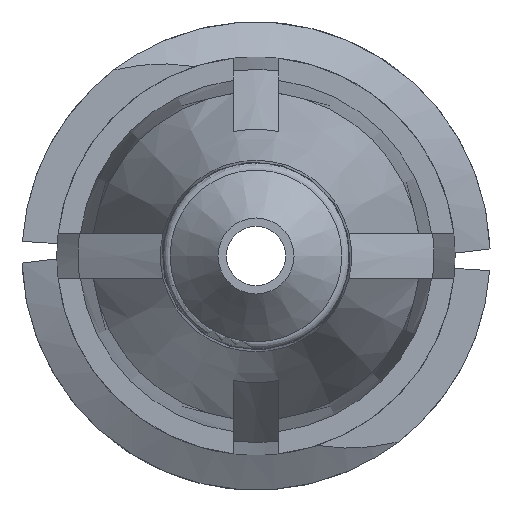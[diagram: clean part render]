
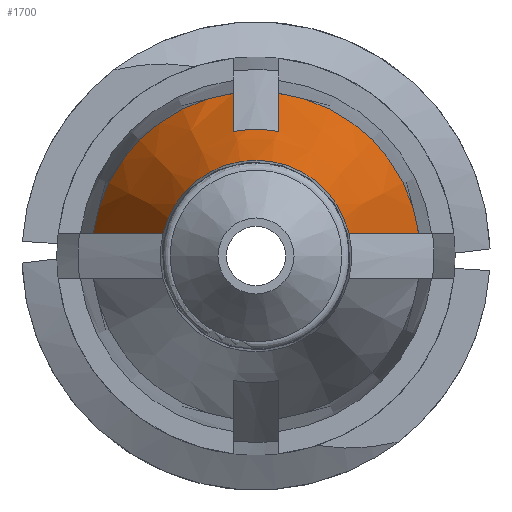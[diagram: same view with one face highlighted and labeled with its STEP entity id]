
A CAD part, front view. The second image highlights one B-rep face of the part: STEP entity #1700.
In plain terms, the highlighted conical face has half-angle 20 degrees and reference radius 2.745 mm.
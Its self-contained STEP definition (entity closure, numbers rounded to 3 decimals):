
#5 = EDGE_LOOP ( 'NONE', ( #1638, #1646, #1039, #217, #597, #2008, #1153, #1460 ) ) ;
#31 = CARTESIAN_POINT ( 'NONE',  ( -0.381, -10.888, 2.507 ) ) ;
#38 = CONICAL_SURFACE ( 'NONE', #2047, 2.745, 0.349 ) ;
#73 = DIRECTION ( 'NONE',  ( 1., 0., 0. ) ) ;
#87 = CARTESIAN_POINT ( 'NONE',  ( -0.381, -10.312, 2.719 ) ) ;
#98 = DIRECTION ( 'NONE',  ( 1., 0., 0. ) ) ;
#119 = B_SPLINE_CURVE_WITH_KNOTS ( 'NONE', 3,
 ( #1850, #1835, #1870, #392 ),
 .UNSPECIFIED., .F., .F.,
 ( 4, 4 ),
 ( 0.003, 0.005 ),
 .UNSPECIFIED. ) ;
#122 = EDGE_CURVE ( 'NONE', #422, #911, #137, .T. ) ;
#137 = CIRCLE ( 'NONE', #1706, 2.745 ) ;
#204 = VERTEX_POINT ( 'NONE', #398 ) ;
#217 = ORIENTED_EDGE ( 'NONE', *, *, #224, .T. ) ;
#220 = VERTEX_POINT ( 'NONE', #1781 ) ;
#224 = EDGE_CURVE ( 'NONE', #1212, #220, #1201, .T. ) ;
#241 = CARTESIAN_POINT ( 'NONE',  ( 0., -10.312, 0. ) ) ;
#317 = DIRECTION ( 'NONE',  ( -1., 0., 0. ) ) ;
#368 = CARTESIAN_POINT ( 'NONE',  ( -0.381, -11.463, 2.295 ) ) ;
#372 = B_SPLINE_CURVE_WITH_KNOTS ( 'NONE', 3,
 ( #1561, #429, #2038, #2051 ),
 .UNSPECIFIED., .F., .F.,
 ( 4, 4 ),
 ( 0.003, 0.007 ),
 .UNSPECIFIED. ) ;
#392 = CARTESIAN_POINT ( 'NONE',  ( 0.381, -12.038, 2.082 ) ) ;
#398 = CARTESIAN_POINT ( 'NONE',  ( 0.381, -10.312, 2.719 ) ) ;
#403 = DIRECTION ( 'NONE',  ( 1., 0., 0. ) ) ;
#422 = VERTEX_POINT ( 'NONE', #1152 ) ;
#429 = CARTESIAN_POINT ( 'NONE',  ( -2.333, -11.362, 0.381 ) ) ;
#514 = B_SPLINE_CURVE_WITH_KNOTS ( 'NONE', 3,
 ( #1597, #1769, #1885, #1605 ),
 .UNSPECIFIED., .F., .F.,
 ( 4, 4 ),
 ( 0.003, 0.007 ),
 .UNSPECIFIED. ) ;
#583 = CIRCLE ( 'NONE', #1600, 1.6 ) ;
#597 = ORIENTED_EDGE ( 'NONE', *, *, #1138, .T. ) ;
#641 = CARTESIAN_POINT ( 'NONE',  ( 0., -12.038, 0. ) ) ;
#643 = VERTEX_POINT ( 'NONE', #1160 ) ;
#667 = EDGE_CURVE ( 'NONE', #643, #1055, #514, .T. ) ;
#691 = CARTESIAN_POINT ( 'NONE',  ( 1.554, -13.458, 0.381 ) ) ;
#703 = CIRCLE ( 'NONE', #777, 2.745 ) ;
#777 = AXIS2_PLACEMENT_3D ( 'NONE', #241, #893, #73 ) ;
#788 = DIRECTION ( 'NONE',  ( 0., -1., 0. ) ) ;
#846 = CARTESIAN_POINT ( 'NONE',  ( -0.381, -12.038, 2.082 ) ) ;
#893 = DIRECTION ( 'NONE',  ( 0., 1., 0. ) ) ;
#910 = DIRECTION ( 'NONE',  ( 0., 1., 0. ) ) ;
#911 = VERTEX_POINT ( 'NONE', #87 ) ;
#935 = B_SPLINE_CURVE_WITH_KNOTS ( 'NONE', 3,
 ( #846, #368, #31, #1974 ),
 .UNSPECIFIED., .F., .F.,
 ( 4, 4 ),
 ( 0.002, 0.004 ),
 .UNSPECIFIED. ) ;
#1039 = ORIENTED_EDGE ( 'NONE', *, *, #1487, .T. ) ;
#1055 = VERTEX_POINT ( 'NONE', #691 ) ;
#1076 = CARTESIAN_POINT ( 'NONE',  ( 0.381, -12.038, 2.082 ) ) ;
#1112 = FACE_OUTER_BOUND ( 'NONE', #5, .T. ) ;
#1138 = EDGE_CURVE ( 'NONE', #220, #911, #935, .T. ) ;
#1152 = CARTESIAN_POINT ( 'NONE',  ( -2.719, -10.312, 0.381 ) ) ;
#1153 = ORIENTED_EDGE ( 'NONE', *, *, #1795, .T. ) ;
#1160 = CARTESIAN_POINT ( 'NONE',  ( 2.719, -10.312, 0.381 ) ) ;
#1191 = VERTEX_POINT ( 'NONE', #1572 ) ;
#1201 = CIRCLE ( 'NONE', #1631, 2.117 ) ;
#1212 = VERTEX_POINT ( 'NONE', #1076 ) ;
#1352 = CARTESIAN_POINT ( 'NONE',  ( 0., -10.312, 0. ) ) ;
#1460 = ORIENTED_EDGE ( 'NONE', *, *, #1919, .T. ) ;
#1464 = DIRECTION ( 'NONE',  ( 1., 0., 0. ) ) ;
#1487 = EDGE_CURVE ( 'NONE', #204, #1212, #119, .T. ) ;
#1511 = EDGE_CURVE ( 'NONE', #204, #643, #703, .T. ) ;
#1559 = DIRECTION ( 'NONE',  ( 0., 1., 0. ) ) ;
#1561 = CARTESIAN_POINT ( 'NONE',  ( -2.719, -10.312, 0.381 ) ) ;
#1569 = CARTESIAN_POINT ( 'NONE',  ( 0., -10.312, 0. ) ) ;
#1572 = CARTESIAN_POINT ( 'NONE',  ( -1.554, -13.458, 0.381 ) ) ;
#1597 = CARTESIAN_POINT ( 'NONE',  ( 2.719, -10.312, 0.381 ) ) ;
#1600 = AXIS2_PLACEMENT_3D ( 'NONE', #1967, #1937, #1464 ) ;
#1605 = CARTESIAN_POINT ( 'NONE',  ( 1.554, -13.458, 0.381 ) ) ;
#1631 = AXIS2_PLACEMENT_3D ( 'NONE', #641, #788, #317 ) ;
#1638 = ORIENTED_EDGE ( 'NONE', *, *, #667, .F. ) ;
#1646 = ORIENTED_EDGE ( 'NONE', *, *, #1511, .F. ) ;
#1700 = ADVANCED_FACE ( 'NONE', ( #1112 ), #38, .T. ) ;
#1706 = AXIS2_PLACEMENT_3D ( 'NONE', #1569, #1559, #98 ) ;
#1769 = CARTESIAN_POINT ( 'NONE',  ( 2.333, -11.362, 0.381 ) ) ;
#1781 = CARTESIAN_POINT ( 'NONE',  ( -0.381, -12.038, 2.082 ) ) ;
#1795 = EDGE_CURVE ( 'NONE', #422, #1191, #372, .T. ) ;
#1835 = CARTESIAN_POINT ( 'NONE',  ( 0.381, -10.888, 2.507 ) ) ;
#1850 = CARTESIAN_POINT ( 'NONE',  ( 0.381, -10.312, 2.719 ) ) ;
#1870 = CARTESIAN_POINT ( 'NONE',  ( 0.381, -11.463, 2.295 ) ) ;
#1885 = CARTESIAN_POINT ( 'NONE',  ( 1.947, -12.411, 0.381 ) ) ;
#1919 = EDGE_CURVE ( 'NONE', #1191, #1055, #583, .T. ) ;
#1937 = DIRECTION ( 'NONE',  ( 0., 1., 0. ) ) ;
#1967 = CARTESIAN_POINT ( 'NONE',  ( 0., -13.458, 0. ) ) ;
#1974 = CARTESIAN_POINT ( 'NONE',  ( -0.381, -10.312, 2.719 ) ) ;
#2008 = ORIENTED_EDGE ( 'NONE', *, *, #122, .F. ) ;
#2038 = CARTESIAN_POINT ( 'NONE',  ( -1.947, -12.411, 0.381 ) ) ;
#2047 = AXIS2_PLACEMENT_3D ( 'NONE', #1352, #910, #403 ) ;
#2051 = CARTESIAN_POINT ( 'NONE',  ( -1.554, -13.458, 0.381 ) ) ;
